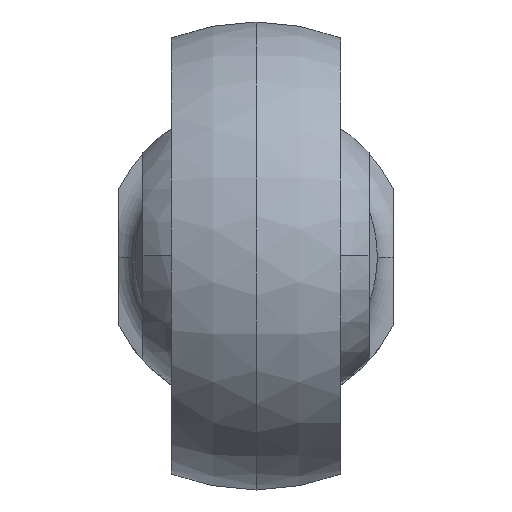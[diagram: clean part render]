
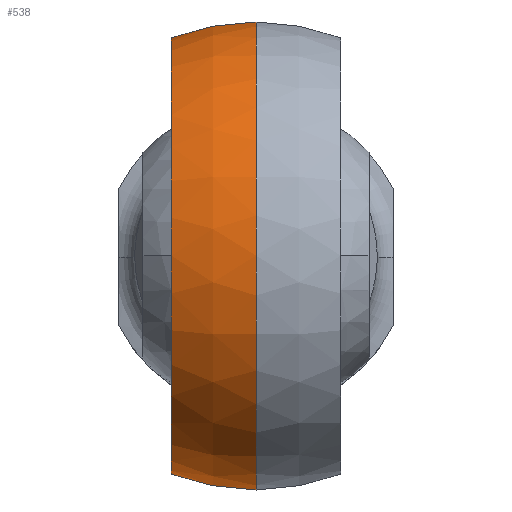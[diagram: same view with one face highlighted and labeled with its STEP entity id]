
A CAD part, top view. The second image highlights one B-rep face of the part: STEP entity #538.
In plain terms, the highlighted spherical face has radius 14.5 mm.
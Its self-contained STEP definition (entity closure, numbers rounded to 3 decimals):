
#36 = CARTESIAN_POINT ( 'NONE',  ( 0., 0., 93. ) ) ;
#45 = CARTESIAN_POINT ( 'NONE',  ( 0., 0., 86.24 ) ) ;
#54 = DIRECTION ( 'NONE',  ( 1., 0., 0. ) ) ;
#139 = FACE_OUTER_BOUND ( 'NONE', #1246, .T. ) ;
#244 = DIRECTION ( 'NONE',  ( 0., 0., -1. ) ) ;
#248 = ORIENTED_EDGE ( 'NONE', *, *, #751, .F. ) ;
#326 = DIRECTION ( 'NONE',  ( 0., -1., 0. ) ) ;
#357 = AXIS2_PLACEMENT_3D ( 'NONE', #484, #1012, #2296 ) ;
#372 = CIRCLE ( 'NONE', #1662, 14.5 ) ;
#393 = CARTESIAN_POINT ( 'NONE',  ( -5.25, 11.704, 86.24 ) ) ;
#484 = CARTESIAN_POINT ( 'NONE',  ( 0., 0., 86.24 ) ) ;
#488 = DIRECTION ( 'NONE',  ( -1., 0., 0. ) ) ;
#501 = CIRCLE ( 'NONE', #1813, 12.828 ) ;
#510 = EDGE_CURVE ( 'NONE', #682, #1695, #372, .T. ) ;
#538 = ADVANCED_FACE ( 'NONE', ( #139 ), #1388, .T. ) ;
#578 = EDGE_CURVE ( 'NONE', #1457, #1695, #1362, .T. ) ;
#636 = CARTESIAN_POINT ( 'NONE',  ( 0., 12.828, 86.24 ) ) ;
#682 = VERTEX_POINT ( 'NONE', #1953 ) ;
#690 = AXIS2_PLACEMENT_3D ( 'NONE', #36, #1137, #244 ) ;
#740 = CARTESIAN_POINT ( 'NONE',  ( -5.25, 0., 93. ) ) ;
#751 = EDGE_CURVE ( 'NONE', #1368, #2025, #501, .T. ) ;
#763 = DIRECTION ( 'NONE',  ( 0., 0., -1. ) ) ;
#849 = CARTESIAN_POINT ( 'NONE',  ( 0., 0., 93. ) ) ;
#866 = DIRECTION ( 'NONE',  ( 0., 0., 1. ) ) ;
#902 = CARTESIAN_POINT ( 'NONE',  ( 0., -12.828, 86.24 ) ) ;
#1012 = DIRECTION ( 'NONE',  ( 0., 0., -1. ) ) ;
#1111 = DIRECTION ( 'NONE',  ( 1., 0., 0. ) ) ;
#1137 = DIRECTION ( 'NONE',  ( 1., 0., 0. ) ) ;
#1246 = EDGE_LOOP ( 'NONE', ( #1279, #1468, #1424, #1539, #248 ) ) ;
#1251 = CIRCLE ( 'NONE', #690, 14.5 ) ;
#1279 = ORIENTED_EDGE ( 'NONE', *, *, #1588, .F. ) ;
#1362 = CIRCLE ( 'NONE', #357, 12.828 ) ;
#1368 = VERTEX_POINT ( 'NONE', #902 ) ;
#1388 = SPHERICAL_SURFACE ( 'NONE', #1972, 14.5 ) ;
#1424 = ORIENTED_EDGE ( 'NONE', *, *, #578, .F. ) ;
#1457 = VERTEX_POINT ( 'NONE', #393 ) ;
#1468 = ORIENTED_EDGE ( 'NONE', *, *, #510, .T. ) ;
#1539 = ORIENTED_EDGE ( 'NONE', *, *, #1762, .T. ) ;
#1588 = EDGE_CURVE ( 'NONE', #682, #1368, #1251, .T. ) ;
#1602 = DIRECTION ( 'NONE',  ( 0., 0., -1. ) ) ;
#1662 = AXIS2_PLACEMENT_3D ( 'NONE', #1745, #2100, #866 ) ;
#1695 = VERTEX_POINT ( 'NONE', #636 ) ;
#1745 = CARTESIAN_POINT ( 'NONE',  ( 0., 0., 93. ) ) ;
#1751 = CARTESIAN_POINT ( 'NONE',  ( -5.25, -11.704, 86.24 ) ) ;
#1762 = EDGE_CURVE ( 'NONE', #1457, #2025, #1849, .T. ) ;
#1813 = AXIS2_PLACEMENT_3D ( 'NONE', #45, #1602, #1111 ) ;
#1849 = CIRCLE ( 'NONE', #2310, 13.516 ) ;
#1953 = CARTESIAN_POINT ( 'NONE',  ( 0., 0., 107.5 ) ) ;
#1972 = AXIS2_PLACEMENT_3D ( 'NONE', #849, #488, #326 ) ;
#2025 = VERTEX_POINT ( 'NONE', #1751 ) ;
#2100 = DIRECTION ( 'NONE',  ( -1., 0., 0. ) ) ;
#2296 = DIRECTION ( 'NONE',  ( 1., 0., 0. ) ) ;
#2310 = AXIS2_PLACEMENT_3D ( 'NONE', #740, #54, #763 ) ;
